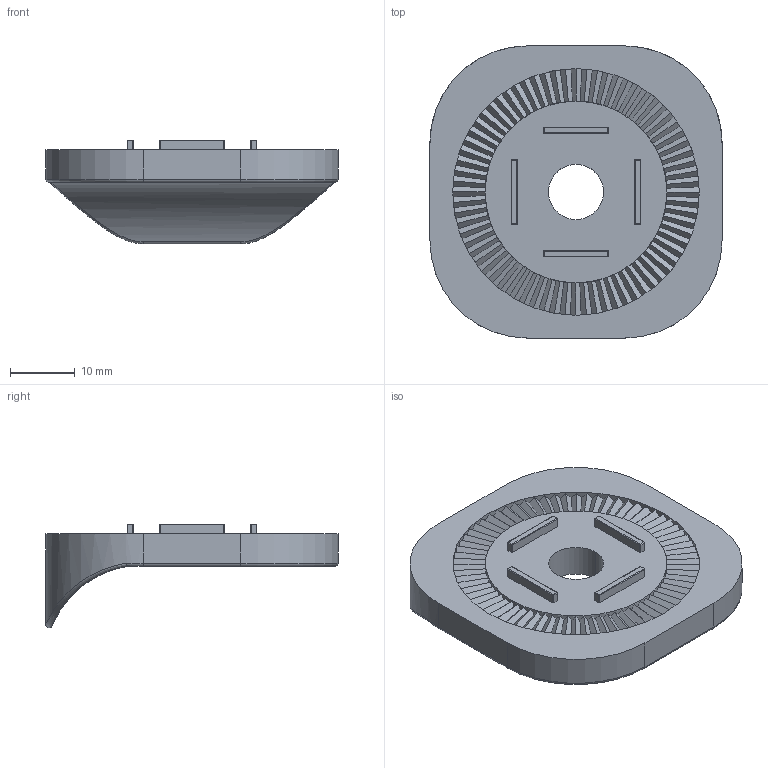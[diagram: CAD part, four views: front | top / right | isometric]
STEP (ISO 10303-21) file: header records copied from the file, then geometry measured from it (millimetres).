
FILE_DESCRIPTION (( 'STEP AP203' ), '1' );
FILE_NAME ('800.029.104A.STEP', '2013-01-21T10:42:43', ( '' ), ( '' ), 'SwSTEP 2.0', 'SolidWorks 2011', '' );
FILE_SCHEMA (( 'CONFIG_CONTROL_DESIGN' ));
Length unit declared in the file: millimetre
Products named in the file (1): 800.029.104A
Bounding box: 45 x 45 x 15.98 mm (x, y, z)
Volume: 9989.7 mm3; surface area: 5339.9 mm2
Topology: 1 solids, 1 shells, 241 faces, 662 edges, 412 vertices
Faces by surface type: plane 171, cylinder 48, sphere 16, torus 4, bspline 2
Entity records: 7769 total; most frequent: CARTESIAN_POINT 2502, ORIENTED_EDGE 1292, DIRECTION 920, EDGE_CURVE 646, VERTEX_POINT 412, AXIS2_PLACEMENT_3D 334, VECTOR 252, LINE 252
